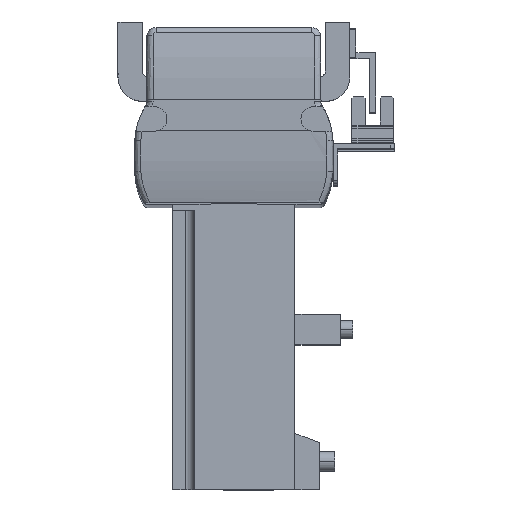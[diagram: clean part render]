
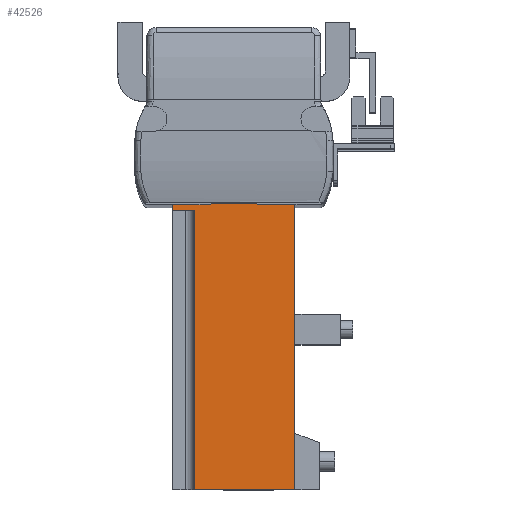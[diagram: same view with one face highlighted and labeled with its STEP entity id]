
A CAD part, top view. The second image highlights one B-rep face of the part: STEP entity #42526.
In plain terms, the highlighted planar face has unit normal (0, 0, 1).
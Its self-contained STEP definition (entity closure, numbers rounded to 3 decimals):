
#1936 = EDGE_CURVE ( 'NONE', #24299, #29965, #42636, .T. ) ;
#2463 = LINE ( 'NONE', #51718, #46491 ) ;
#3258 = LINE ( 'NONE', #44401, #35945 ) ;
#3941 = CARTESIAN_POINT ( 'NONE',  ( -14.245, -110.165, 512. ) ) ;
#4460 = EDGE_CURVE ( 'NONE', #50266, #26390, #37083, .T. ) ;
#5732 = VECTOR ( 'NONE', #14324, 1000. ) ;
#6067 = VECTOR ( 'NONE', #36424, 1000. ) ;
#6582 = ORIENTED_EDGE ( 'NONE', *, *, #50289, .F. ) ;
#6588 = CARTESIAN_POINT ( 'NONE',  ( -21.245, -110.165, 512. ) ) ;
#7498 = ORIENTED_EDGE ( 'NONE', *, *, #1936, .F. ) ;
#7743 = PLANE ( 'NONE',  #32904 ) ;
#8580 = VECTOR ( 'NONE', #40902, 1000. ) ;
#10042 = LINE ( 'NONE', #17256, #44082 ) ;
#13331 = ORIENTED_EDGE ( 'NONE', *, *, #4460, .T. ) ;
#13348 = LINE ( 'NONE', #6588, #6067 ) ;
#14324 = DIRECTION ( 'NONE',  ( -1., 0., 0. ) ) ;
#16242 = CARTESIAN_POINT ( 'NONE',  ( -21.245, -13.665, 512. ) ) ;
#16465 = CARTESIAN_POINT ( 'NONE',  ( -21.245, -13.665, 512. ) ) ;
#17256 = CARTESIAN_POINT ( 'NONE',  ( -21.245, -13.665, 512. ) ) ;
#20019 = EDGE_LOOP ( 'NONE', ( #13331, #46107, #7498, #6582, #44158, #30719 ) ) ;
#24299 = VERTEX_POINT ( 'NONE', #51726 ) ;
#24846 = DIRECTION ( 'NONE',  ( -1., 0., 0. ) ) ;
#26390 = VERTEX_POINT ( 'NONE', #16465 ) ;
#27928 = EDGE_CURVE ( 'NONE', #29906, #34545, #13348, .T. ) ;
#29906 = VERTEX_POINT ( 'NONE', #42632 ) ;
#29965 = VERTEX_POINT ( 'NONE', #51774 ) ;
#30719 = ORIENTED_EDGE ( 'NONE', *, *, #35716, .F. ) ;
#32904 = AXIS2_PLACEMENT_3D ( 'NONE', #16242, #50469, #24846 ) ;
#34545 = VERTEX_POINT ( 'NONE', #3941 ) ;
#34728 = DIRECTION ( 'NONE',  ( 0., 1., 0. ) ) ;
#35716 = EDGE_CURVE ( 'NONE', #50266, #29906, #3258, .T. ) ;
#35945 = VECTOR ( 'NONE', #48720, 1000. ) ;
#36424 = DIRECTION ( 'NONE',  ( -1., 0., 0. ) ) ;
#37083 = LINE ( 'NONE', #49402, #5732 ) ;
#40532 = CARTESIAN_POINT ( 'NONE',  ( -17.245, -18.665, 512. ) ) ;
#40897 = EDGE_CURVE ( 'NONE', #29965, #26390, #10042, .T. ) ;
#40902 = DIRECTION ( 'NONE',  ( -1., 0., 0. ) ) ;
#42526 = ADVANCED_FACE ( 'NONE', ( #47244 ), #7743, .F. ) ;
#42632 = CARTESIAN_POINT ( 'NONE',  ( 18.755, -110.165, 512. ) ) ;
#42636 = LINE ( 'NONE', #40532, #8580 ) ;
#44082 = VECTOR ( 'NONE', #47154, 1000. ) ;
#44158 = ORIENTED_EDGE ( 'NONE', *, *, #27928, .F. ) ;
#44401 = CARTESIAN_POINT ( 'NONE',  ( 18.755, -13.665, 512. ) ) ;
#46107 = ORIENTED_EDGE ( 'NONE', *, *, #40897, .F. ) ;
#46491 = VECTOR ( 'NONE', #34728, 1000. ) ;
#47043 = CARTESIAN_POINT ( 'NONE',  ( 18.755, -13.665, 512. ) ) ;
#47154 = DIRECTION ( 'NONE',  ( 0., 1., 0. ) ) ;
#47244 = FACE_OUTER_BOUND ( 'NONE', #20019, .T. ) ;
#48720 = DIRECTION ( 'NONE',  ( 0., -1., 0. ) ) ;
#49402 = CARTESIAN_POINT ( 'NONE',  ( -21.245, -13.665, 512. ) ) ;
#50266 = VERTEX_POINT ( 'NONE', #47043 ) ;
#50289 = EDGE_CURVE ( 'NONE', #34545, #24299, #2463, .T. ) ;
#50469 = DIRECTION ( 'NONE',  ( 0., 0., -1. ) ) ;
#51718 = CARTESIAN_POINT ( 'NONE',  ( -14.245, -13.665, 512. ) ) ;
#51726 = CARTESIAN_POINT ( 'NONE',  ( -14.245, -18.665, 512. ) ) ;
#51774 = CARTESIAN_POINT ( 'NONE',  ( -21.245, -18.665, 512. ) ) ;
